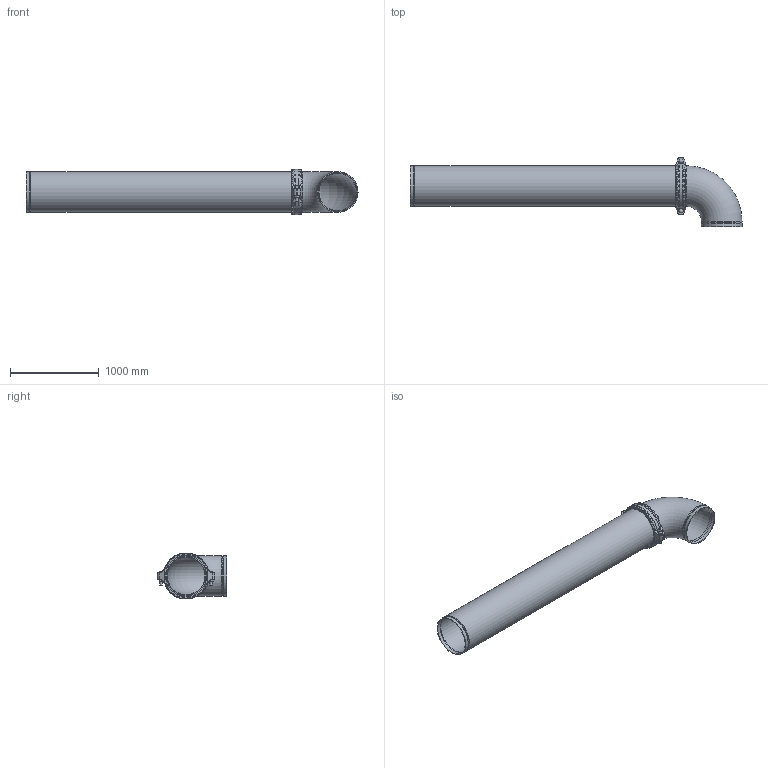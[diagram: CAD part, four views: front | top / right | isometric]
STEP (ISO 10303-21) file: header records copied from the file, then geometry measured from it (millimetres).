
FILE_DESCRIPTION(/* description */ ('VIC AGS LONG RUN FITTING No WR23 (AGS)','CAx-IF Rec.Pracs.---Representation and Presentation of Product Manufacturing Information (PMI)---4.0---2014-10-13'),/* implementation_level */ '2;1');
FILE_NAME(/* name */ 'C:\Users\kkamble\AppData\Roaming\Autodesk\ApplicationPlugins\Back Up\Victaulic_AGS_Long Run Fittings_No WR23 (AGS)\Victaulic_AGS_Long Run Fittings_No WR23 (AGS)_18 (450).stp',/* time_stamp */ '2020-10-07T02:22:18+06:00',/* author */ ('kkamble'),/* organization */ ('Victaulic'),/* preprocessor_version */ 'ST-DEVELOPER v17.2',/* originating_system */ 'Autodesk Inventor 2019',/* authorisation */ '');
FILE_SCHEMA (('AP242_MANAGED_MODEL_BASED_3D_ENGINEERING_MIM_LF { 1 0 10303 442 1 1 4 }'));
Length unit declared in the file: inch
Products named in the file (4): WR23-18.0; WR23-18.0_1; W77-18.0; W10-18.0
Assembly tree (3 placements, depth 2):
  WR23-18.0
    WR23-18.0_1
    W77-18.0
    W10-18.0
Bounding box: 3741.67 x 781.05 x 517.61 mm (x, y, z)
Volume: 62988369.4 mm3; surface area: 11282709.7 mm2
Topology: 3 solids, 5 shells, 319 faces, 934 edges, 637 vertices
Faces by surface type: cylinder 153, plane 106, torus 50, cone 8, sphere 2
Full cylindrical faces by diameter (mm): 25.4 x4, 42.85 x2, 423.672 x2, 431.8 x1, 438.15 x1, 444.5 x4, 457.2 x9
Entity records: 13346 total; most frequent: CARTESIAN_POINT 4333, ORIENTED_EDGE 1868, DIRECTION 1769, EDGE_CURVE 934, AXIS2_PLACEMENT_3D 701, VERTEX_POINT 637, CIRCLE 371, LINE 367
